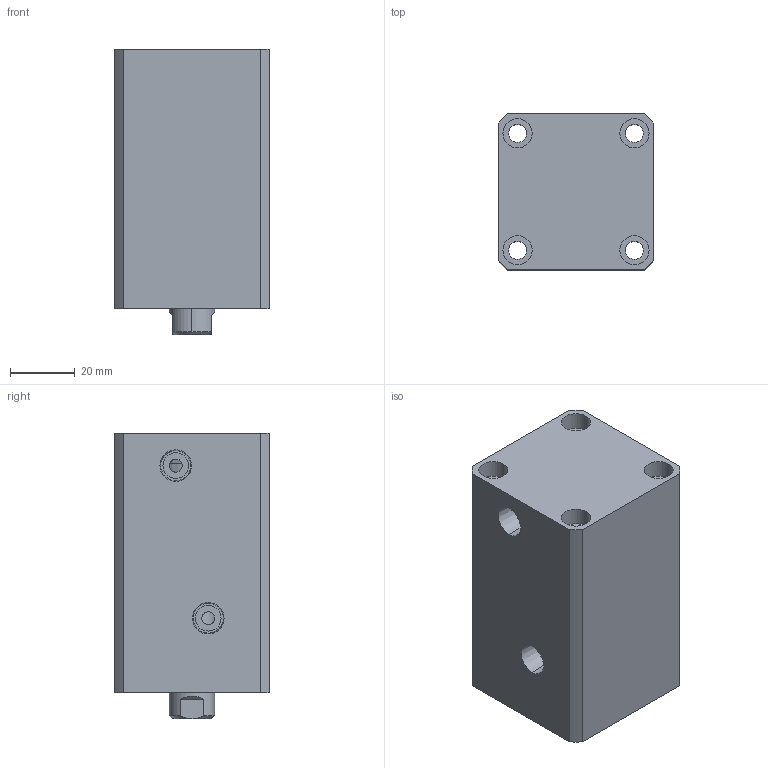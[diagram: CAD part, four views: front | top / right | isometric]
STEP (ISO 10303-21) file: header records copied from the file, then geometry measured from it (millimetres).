
FILE_DESCRIPTION (( 'STEP AP214' ), '1' );
FILE_NAME ('chtb-sd25x35n_asm.STEP', '2018-05-22T11:15:39', ( 'Windows' ), ( 'Microsoft' ), 'SwSTEP 2.0', 'SolidWorks 2015', '' );
FILE_SCHEMA (( 'AUTOMOTIVE_DESIGN' ));
Length unit declared in the file: millimetre
Products named in the file (4): CHTB-SD25X35NHSG; CHTB-SD25X35NBT; CHTB-25QG; chtb-sd25x35n_asm
Assembly tree (3 placements, depth 2):
  chtb-sd25x35n_asm
    CHTB-25QG
    CHTB-SD25X35NBT
    CHTB-SD25X35NHSG
Bounding box: 48 x 48 x 88 mm (x, y, z)
Volume: 159149.4 mm3; surface area: 42992.2 mm2
Topology: 3 solids, 3 shells, 144 faces, 377 edges, 257 vertices
Faces by surface type: cylinder 85, plane 36, cone 13, bspline 10
Entity records: 7940 total; most frequent: CARTESIAN_POINT 4299, ORIENTED_EDGE 742, DIRECTION 671, EDGE_CURVE 371, AXIS2_PLACEMENT_3D 278, VERTEX_POINT 257, EDGE_LOOP 182, ADVANCED_FACE 144
